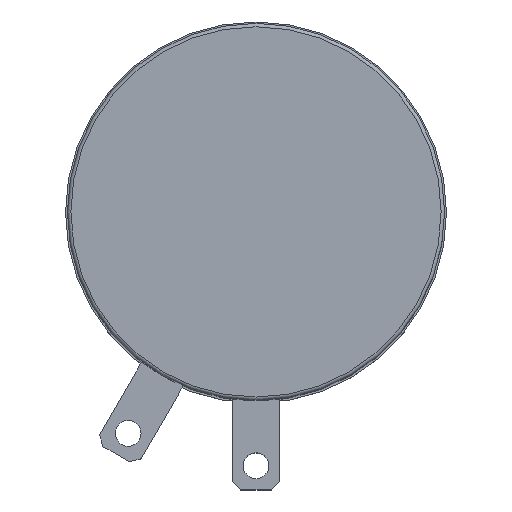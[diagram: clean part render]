
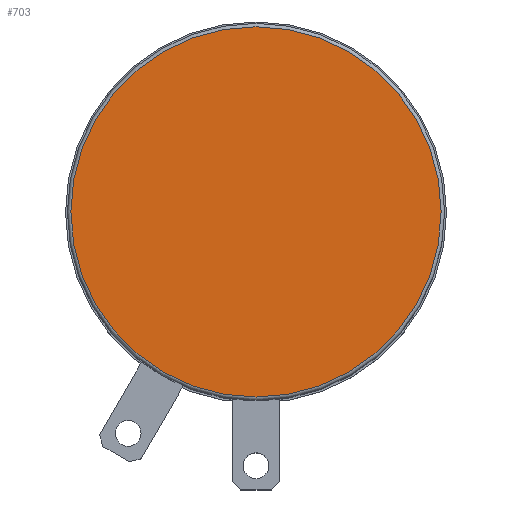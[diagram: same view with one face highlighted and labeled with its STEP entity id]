
A CAD part, top view. The second image highlights one B-rep face of the part: STEP entity #703.
In plain terms, the highlighted planar face has unit normal (0, 0, 1).
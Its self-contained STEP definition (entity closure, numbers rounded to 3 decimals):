
#47 = DIRECTION ( 'NONE',  ( 0., 0., 1. ) ) ;
#143 = EDGE_LOOP ( 'NONE', ( #370 ) ) ;
#370 = ORIENTED_EDGE ( 'NONE', *, *, #717, .T. ) ;
#394 = DIRECTION ( 'NONE',  ( 0., -1., 0. ) ) ;
#482 = DIRECTION ( 'NONE',  ( 0., 0., 1. ) ) ;
#635 = VERTEX_POINT ( 'NONE', #1002 ) ;
#703 = ADVANCED_FACE ( 'NONE', ( #786 ), #802, .T. ) ;
#717 = EDGE_CURVE ( 'NONE', #635, #635, #902, .T. ) ;
#786 = FACE_OUTER_BOUND ( 'NONE', #143, .T. ) ;
#802 = PLANE ( 'NONE',  #928 ) ;
#804 = CARTESIAN_POINT ( 'NONE',  ( 0., 0., 0. ) ) ;
#895 = CARTESIAN_POINT ( 'NONE',  ( 0., 0., 0. ) ) ;
#902 = CIRCLE ( 'NONE', #988, 10.8 ) ;
#928 = AXIS2_PLACEMENT_3D ( 'NONE', #895, #482, #394 ) ;
#988 = AXIS2_PLACEMENT_3D ( 'NONE', #804, #47, #1055 ) ;
#1002 = CARTESIAN_POINT ( 'NONE',  ( 0., -10.8, 0. ) ) ;
#1055 = DIRECTION ( 'NONE',  ( 0., -1., 0. ) ) ;
